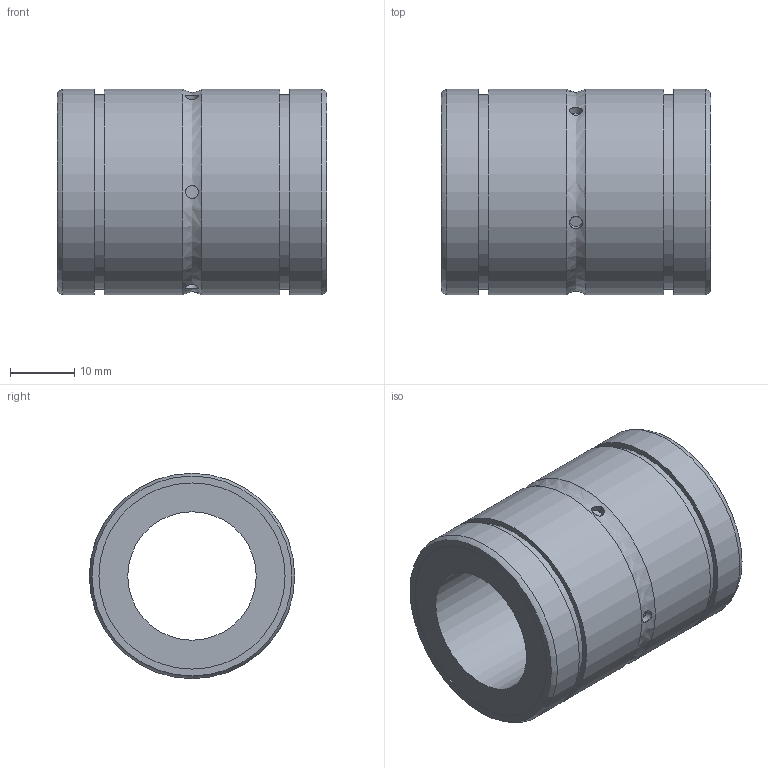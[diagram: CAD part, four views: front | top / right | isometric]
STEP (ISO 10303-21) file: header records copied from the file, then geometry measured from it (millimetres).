
FILE_DESCRIPTION((''),'2;1');
FILE_NAME('D:\製品 (図面)\カタログ用3D\リニアベアリング関連\STEP形式\L-OH\L20-OH.stp','2010-06-04T09:30:33',('Tsuchiya'),(''),'Autodesk Inventor 10','Autodesk Inventor 10','');
FILE_SCHEMA(('AUTOMOTIVE_DESIGN { 1 0 10303 214 1 1 1 1 }'));
Length unit declared in the file: millimetre
Products named in the file (1): L20-OH
Bounding box: 42 x 32 x 32 mm (x, y, z)
Volume: 20095.9 mm3; surface area: 8144.7 mm2
Topology: 1 solids, 1 shells, 30 faces, 52 edges, 35 vertices
Faces by surface type: cylinder 14, plane 8, bspline 6, torus 2
Full cylindrical faces by diameter (mm): 20 x1, 29 x2, 30.3 x2, 32 x4
Entity records: 1183 total; most frequent: CARTESIAN_POINT 697, DIRECTION 90, ORIENTED_EDGE 60, EDGE_LOOP 60, AXIS2_PLACEMENT_3D 45, VERTEX_POINT 30, EDGE_CURVE 30, FACE_OUTER_BOUND 30
